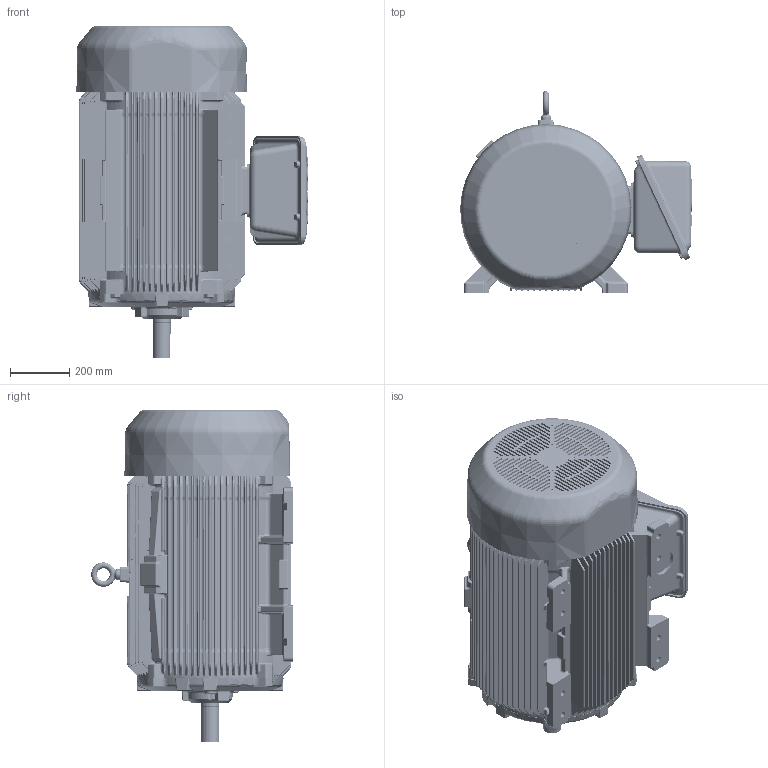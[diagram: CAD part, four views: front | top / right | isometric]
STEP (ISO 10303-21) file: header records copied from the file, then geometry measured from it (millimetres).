
FILE_DESCRIPTION((''),'2;1');
FILE_NAME('447_3D_ASM_ASM','2018-07-25T11:14:08',('EMD2341'),('Nidec Motor Corporation'),'CREO PARAMETRIC BY PTC INC, 2018020','CREO PARAMETRIC BY PTC INC, 2018020','');
FILE_SCHEMA(('CONFIG_CONTROL_DESIGN'));
Length unit declared in the file: inch
Products named in the file (10): 447_FOOTED_FRAME; 0011046; 440_TS; 440_CAST_GSK_OBB; 440_OBB_NEMA; 440_CAST_GSK_OBC; 440_CAST_OBC; 440_STL_FCVR; 440_ODE_BRKT; 447_3D_ASM_ASM
Assembly tree (9 placements, depth 2):
  447_3D_ASM_ASM
    447_FOOTED_FRAME
    0011046
    440_TS
    440_CAST_GSK_OBB
    440_OBB_NEMA
    440_CAST_GSK_OBC
    440_CAST_OBC
    440_STL_FCVR
    440_ODE_BRKT
Bounding box: 781.98 x 681.1 x 1120.65 mm (x, y, z)
Volume: 233856558.1 mm3; surface area: 6698954.4 mm2
Topology: 9 solids, 10 shells, 6495 faces, 14922 edges, 8574 vertices
Faces by surface type: bspline 2752, cylinder 1436, plane 1306, extrusion 460, torus 388, sphere 92, cone 61
Entity records: 294518 total; most frequent: CARTESIAN_POINT 167470, ORIENTED_EDGE 29838, DIRECTION 20836, EDGE_CURVE 14921, VERTEX_POINT 8574, AXIS2_PLACEMENT_3D 7711, EDGE_LOOP 6653, FACE_OUTER_BOUND 6495
